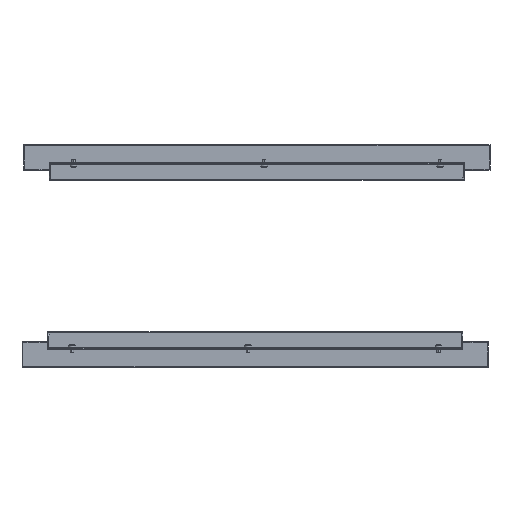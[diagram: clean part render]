
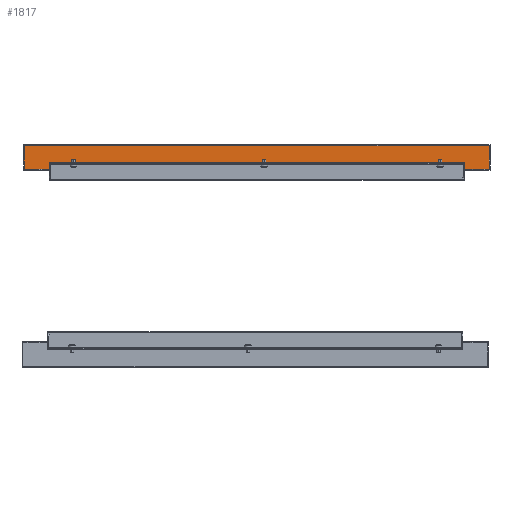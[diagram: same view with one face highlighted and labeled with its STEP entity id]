
A CAD part, left-side view. The second image highlights one B-rep face of the part: STEP entity #1817.
In plain terms, the highlighted planar face has unit normal (-1, 0, 0).
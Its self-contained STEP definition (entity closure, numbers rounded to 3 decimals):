
#122 = CARTESIAN_POINT ( 'NONE',  ( 14.1, 396.1, 513.5 ) ) ;
#225 = VERTEX_POINT ( 'NONE', #2081 ) ;
#534 = EDGE_CURVE ( 'NONE', #4361, #869, #3439, .T. ) ;
#568 = AXIS2_PLACEMENT_3D ( 'NONE', #5054, #2595, #880 ) ;
#790 = CARTESIAN_POINT ( 'NONE',  ( 14.1, 0., 533.6 ) ) ;
#843 = VERTEX_POINT ( 'NONE', #4286 ) ;
#869 = VERTEX_POINT ( 'NONE', #1441 ) ;
#880 = DIRECTION ( 'NONE',  ( 0., 1., 0. ) ) ;
#1000 = EDGE_CURVE ( 'NONE', #225, #4361, #2830, .T. ) ;
#1028 = ORIENTED_EDGE ( 'NONE', *, *, #534, .T. ) ;
#1285 = ORIENTED_EDGE ( 'NONE', *, *, #1000, .T. ) ;
#1441 = CARTESIAN_POINT ( 'NONE',  ( 14.1, 396.1, 493.4 ) ) ;
#1458 = CARTESIAN_POINT ( 'NONE',  ( 14.1, 0., 493.4 ) ) ;
#1687 = FACE_OUTER_BOUND ( 'NONE', #4917, .T. ) ;
#1817 = ADVANCED_FACE ( 'NONE', ( #1687 ), #5002, .F. ) ;
#2081 = CARTESIAN_POINT ( 'NONE',  ( 14.1, -396.1, 533.6 ) ) ;
#2127 = VECTOR ( 'NONE', #5143, 1000. ) ;
#2318 = EDGE_CURVE ( 'NONE', #869, #843, #3833, .T. ) ;
#2444 = ORIENTED_EDGE ( 'NONE', *, *, #3181, .T. ) ;
#2448 = VECTOR ( 'NONE', #3538, 1000. ) ;
#2595 = DIRECTION ( 'NONE',  ( 1., 0., 0. ) ) ;
#2658 = CARTESIAN_POINT ( 'NONE',  ( 14.1, 396.1, 533.6 ) ) ;
#2830 = LINE ( 'NONE', #790, #3069 ) ;
#3039 = VECTOR ( 'NONE', #3939, 1000. ) ;
#3069 = VECTOR ( 'NONE', #3598, 1000. ) ;
#3181 = EDGE_CURVE ( 'NONE', #843, #225, #4747, .T. ) ;
#3439 = LINE ( 'NONE', #122, #2127 ) ;
#3490 = CARTESIAN_POINT ( 'NONE',  ( 14.1, -396.1, 513.5 ) ) ;
#3538 = DIRECTION ( 'NONE',  ( 0., 0., 1. ) ) ;
#3598 = DIRECTION ( 'NONE',  ( 0., 1., 0. ) ) ;
#3833 = LINE ( 'NONE', #1458, #3039 ) ;
#3939 = DIRECTION ( 'NONE',  ( 0., -1., 0. ) ) ;
#4286 = CARTESIAN_POINT ( 'NONE',  ( 14.1, -396.1, 493.4 ) ) ;
#4361 = VERTEX_POINT ( 'NONE', #2658 ) ;
#4747 = LINE ( 'NONE', #3490, #2448 ) ;
#4917 = EDGE_LOOP ( 'NONE', ( #1285, #1028, #4963, #2444 ) ) ;
#4963 = ORIENTED_EDGE ( 'NONE', *, *, #2318, .T. ) ;
#5002 = PLANE ( 'NONE',  #568 ) ;
#5054 = CARTESIAN_POINT ( 'NONE',  ( 14.1, 0., 513.5 ) ) ;
#5143 = DIRECTION ( 'NONE',  ( 0., 0., -1. ) ) ;
